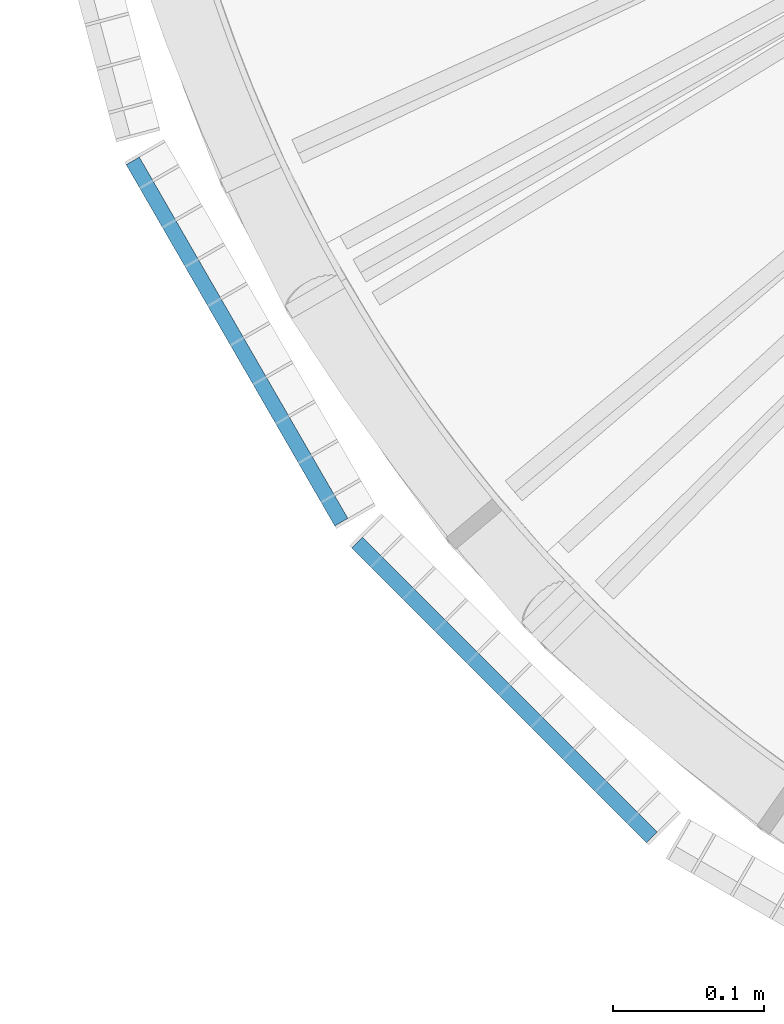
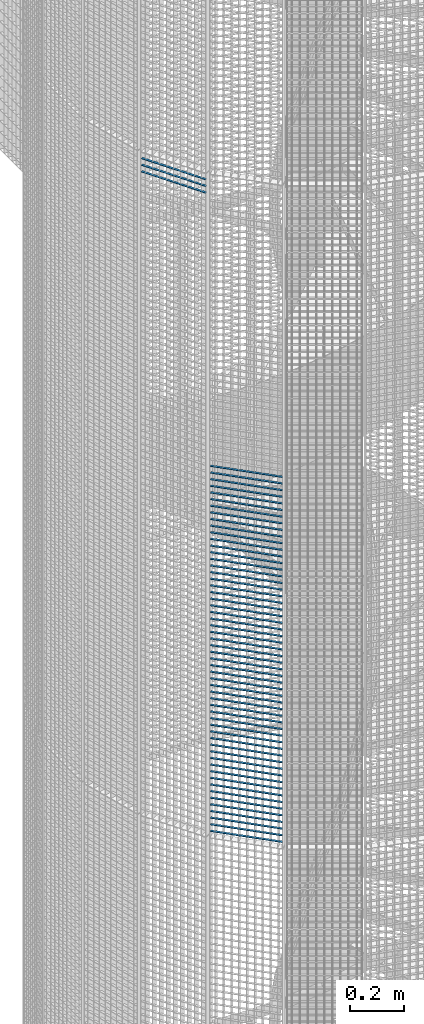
# One storey, part 125 of 1183: 59 beams, 2 elements without a shape of their own.
"""IFC2X3 building model written with IfcOpenShell, lengths in millimetres."""

from ifc_helpers import new_model, si_unit, frame, origin_with_axes, origin_2d_with_axis, place, context, subcontext, project, spatial, rectangle, extrude, material, type_object, element, aggregate, save


model = new_model("IFC2X3")

# Units and contexts
model_context = context("Model", 3, precision=1e-05, world=origin_with_axes())
body_context = subcontext(model_context, "Body", "Model", "MODEL_VIEW")
ifc_project = project(units=[si_unit("LENGTHUNIT", "METRE", prefix="MILLI"), si_unit("AREAUNIT", "SQUARE_METRE"), si_unit("VOLUMEUNIT", "CUBIC_METRE"), si_unit("MASSUNIT", "GRAM", prefix="KILO"), si_unit("TIMEUNIT", "SECOND"), si_unit("PLANEANGLEUNIT", "RADIAN"), si_unit("SOLIDANGLEUNIT", "STERADIAN"), si_unit("THERMODYNAMICTEMPERATUREUNIT", "DEGREE_CELSIUS"), si_unit("LUMINOUSINTENSITYUNIT", "LUMEN")], contexts=[model_context])

# Site, building, storey
site_placement = place(None, origin_with_axes())
site = spatial("IfcSite", under=ifc_project, at=site_placement, Name="Undefined", CompositionType="ELEMENT")
building_placement = place(site_placement, origin_with_axes())
building = spatial("IfcBuilding", under=site, at=building_placement, Name="Undefined", CompositionType="ELEMENT")
storey_placement = place(building_placement, origin_with_axes())
storey = spatial("IfcBuildingStorey", under=building, at=storey_placement, Name="Undefined", CompositionType="ELEMENT", Elevation=0.0)

# Assembly, beams
assembly_1_placement = place(storey_placement, origin_with_axes())
assembly_1 = element("IfcElementAssembly", 1, at=assembly_1_placement, inside=storey, Name="BORDURE", AssemblyPlace="NOTDEFINED", PredefinedType="NOTDEFINED")
ifc_material = material(Name="STEEL/S235JR")
beam_type = type_object("IfcBeamType", Name="PL2*10", PredefinedType="NOTDEFINED")
beam_1_placement = place(assembly_1_placement, frame((-884.927168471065, -689.771348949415, 4680.0), z_axis=(-0.70710678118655, -0.707106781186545, 0.0), x_axis=(0.707106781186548, -0.707106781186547, 0.0)))
beam_1 = element("IfcBeam", 2, at=beam_1_placement, type_object=beam_type, material=ifc_material, Name="ENTRETOISE", context=body_context, shape_type="SweptSolid", body=[
    extrude(rectangle(XDim=2.0, YDim=10.0, at=origin_2d_with_axis()), frame((275.999999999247, 9.09494701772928e-13, 1.53210777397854e-14), z_axis=(-1.0, 0.0, 0.0), x_axis=(0.0, -1.0, 0.0)), (0.0, 0.0, 1.0), 276.0),
])
beam_2_placement = place(assembly_1_placement, frame((-884.927168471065, -689.771348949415, 4650.0), z_axis=(-0.70710678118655, -0.707106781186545, 0.0), x_axis=(0.707106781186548, -0.707106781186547, 0.0)))
beam_2 = element("IfcBeam", 3, at=beam_2_placement, type_object=beam_type, material=ifc_material, Name="ENTRETOISE", context=body_context, shape_type="SweptSolid", body=[
    extrude(rectangle(XDim=2.0, YDim=10.0, at=origin_2d_with_axis()), frame((275.999999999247, 9.09494701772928e-13, 1.53210777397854e-14), z_axis=(-1.0, 0.0, 0.0), x_axis=(0.0, -1.0, 0.0)), (0.0, 0.0, 1.0), 276.0),
])
beam_3_placement = place(assembly_1_placement, frame((-884.927168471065, -689.771348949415, 4620.0), z_axis=(-0.70710678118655, -0.707106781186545, 0.0), x_axis=(0.707106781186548, -0.707106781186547, 0.0)))
beam_3 = element("IfcBeam", 4, at=beam_3_placement, type_object=beam_type, material=ifc_material, Name="ENTRETOISE", context=body_context, shape_type="SweptSolid", body=[
    extrude(rectangle(XDim=2.0, YDim=10.0, at=origin_2d_with_axis()), frame((275.999999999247, 9.09494701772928e-13, 1.53210777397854e-14), z_axis=(-1.0, 0.0, 0.0), x_axis=(0.0, -1.0, 0.0)), (0.0, 0.0, 1.0), 276.0),
])
beam_4_placement = place(assembly_1_placement, frame((-884.927168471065, -689.771348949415, 4590.0), z_axis=(-0.70710678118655, -0.707106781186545, 0.0), x_axis=(0.707106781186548, -0.707106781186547, 0.0)))
beam_4 = element("IfcBeam", 5, at=beam_4_placement, type_object=beam_type, material=ifc_material, Name="ENTRETOISE", context=body_context, shape_type="SweptSolid", body=[
    extrude(rectangle(XDim=2.0, YDim=10.0, at=origin_2d_with_axis()), frame((275.999999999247, 9.09494701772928e-13, 1.53210777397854e-14), z_axis=(-1.0, 0.0, 0.0), x_axis=(0.0, -1.0, 0.0)), (0.0, 0.0, 1.0), 276.0),
])
beam_5_placement = place(assembly_1_placement, frame((-884.927168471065, -689.771348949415, 4560.0), z_axis=(-0.70710678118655, -0.707106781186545, 0.0), x_axis=(0.707106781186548, -0.707106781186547, 0.0)))
beam_5 = element("IfcBeam", 6, at=beam_5_placement, type_object=beam_type, material=ifc_material, Name="ENTRETOISE", context=body_context, shape_type="SweptSolid", body=[
    extrude(rectangle(XDim=2.0, YDim=10.0, at=origin_2d_with_axis()), frame((275.999999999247, 9.09494701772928e-13, 1.53210777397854e-14), z_axis=(-1.0, 0.0, 0.0), x_axis=(0.0, -1.0, 0.0)), (0.0, 0.0, 1.0), 276.0),
])
beam_6_placement = place(assembly_1_placement, frame((-884.927168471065, -689.771348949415, 4530.0), z_axis=(-0.70710678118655, -0.707106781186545, 0.0), x_axis=(0.707106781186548, -0.707106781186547, 0.0)))
beam_6 = element("IfcBeam", 7, at=beam_6_placement, type_object=beam_type, material=ifc_material, Name="ENTRETOISE", context=body_context, shape_type="SweptSolid", body=[
    extrude(rectangle(XDim=2.0, YDim=10.0, at=origin_2d_with_axis()), frame((275.999999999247, 9.09494701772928e-13, 1.53210777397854e-14), z_axis=(-1.0, 0.0, 0.0), x_axis=(0.0, -1.0, 0.0)), (0.0, 0.0, 1.0), 276.0),
])
beam_7_placement = place(assembly_1_placement, frame((-884.927168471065, -689.771348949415, 4500.0), z_axis=(-0.70710678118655, -0.707106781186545, 0.0), x_axis=(0.707106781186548, -0.707106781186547, 0.0)))
beam_7 = element("IfcBeam", 8, at=beam_7_placement, type_object=beam_type, material=ifc_material, Name="ENTRETOISE", context=body_context, shape_type="SweptSolid", body=[
    extrude(rectangle(XDim=2.0, YDim=10.0, at=origin_2d_with_axis()), frame((275.999999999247, 9.09494701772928e-13, 1.53210777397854e-14), z_axis=(-1.0, 0.0, 0.0), x_axis=(0.0, -1.0, 0.0)), (0.0, 0.0, 1.0), 276.0),
])
beam_8_placement = place(assembly_1_placement, frame((-884.927168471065, -689.771348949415, 4470.0), z_axis=(-0.70710678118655, -0.707106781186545, 0.0), x_axis=(0.707106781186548, -0.707106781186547, 0.0)))
beam_8 = element("IfcBeam", 9, at=beam_8_placement, type_object=beam_type, material=ifc_material, Name="ENTRETOISE", context=body_context, shape_type="SweptSolid", body=[
    extrude(rectangle(XDim=2.0, YDim=10.0, at=origin_2d_with_axis()), frame((275.999999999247, 9.09494701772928e-13, 1.53210777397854e-14), z_axis=(-1.0, 0.0, 0.0), x_axis=(0.0, -1.0, 0.0)), (0.0, 0.0, 1.0), 276.0),
])
beam_9_placement = place(assembly_1_placement, frame((-884.927168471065, -689.771348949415, 4440.0), z_axis=(-0.70710678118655, -0.707106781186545, 0.0), x_axis=(0.707106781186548, -0.707106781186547, 0.0)))
beam_9 = element("IfcBeam", 10, at=beam_9_placement, type_object=beam_type, material=ifc_material, Name="ENTRETOISE", context=body_context, shape_type="SweptSolid", body=[
    extrude(rectangle(XDim=2.0, YDim=10.0, at=origin_2d_with_axis()), frame((275.999999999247, 9.09494701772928e-13, 1.53210777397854e-14), z_axis=(-1.0, 0.0, 0.0), x_axis=(0.0, -1.0, 0.0)), (0.0, 0.0, 1.0), 276.0),
])
beam_10_placement = place(assembly_1_placement, frame((-884.927168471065, -689.771348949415, 4410.0), z_axis=(-0.70710678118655, -0.707106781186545, 0.0), x_axis=(0.707106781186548, -0.707106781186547, 0.0)))
beam_10 = element("IfcBeam", 11, at=beam_10_placement, type_object=beam_type, material=ifc_material, Name="ENTRETOISE", context=body_context, shape_type="SweptSolid", body=[
    extrude(rectangle(XDim=2.0, YDim=10.0, at=origin_2d_with_axis()), frame((275.999999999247, 9.09494701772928e-13, 1.53210777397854e-14), z_axis=(-1.0, 0.0, 0.0), x_axis=(0.0, -1.0, 0.0)), (0.0, 0.0, 1.0), 276.0),
])
beam_11_placement = place(assembly_1_placement, frame((-884.927168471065, -689.771348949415, 4380.0), z_axis=(-0.70710678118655, -0.707106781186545, 0.0), x_axis=(0.707106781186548, -0.707106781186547, 0.0)))
beam_11 = element("IfcBeam", 12, at=beam_11_placement, type_object=beam_type, material=ifc_material, Name="ENTRETOISE", context=body_context, shape_type="SweptSolid", body=[
    extrude(rectangle(XDim=2.0, YDim=10.0, at=origin_2d_with_axis()), frame((275.999999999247, 9.09494701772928e-13, 1.53210777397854e-14), z_axis=(-1.0, 0.0, 0.0), x_axis=(0.0, -1.0, 0.0)), (0.0, 0.0, 1.0), 276.0),
])
beam_12_placement = place(assembly_1_placement, frame((-884.927168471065, -689.771348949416, 4350.0), z_axis=(-0.70710678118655, -0.707106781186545, 0.0), x_axis=(0.707106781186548, -0.707106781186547, 0.0)))
beam_12 = element("IfcBeam", 13, at=beam_12_placement, type_object=beam_type, material=ifc_material, Name="ENTRETOISE", context=body_context, shape_type="SweptSolid", body=[
    extrude(rectangle(XDim=2.0, YDim=10.0, at=origin_2d_with_axis()), frame((275.999999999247, 9.09494701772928e-13, 1.53210777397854e-14), z_axis=(-1.0, 0.0, 0.0), x_axis=(0.0, -1.0, 0.0)), (0.0, 0.0, 1.0), 276.0),
])
beam_13_placement = place(assembly_1_placement, frame((-884.927168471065, -689.771348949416, 4320.0), z_axis=(-0.70710678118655, -0.707106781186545, 0.0), x_axis=(0.707106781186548, -0.707106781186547, 0.0)))
beam_13 = element("IfcBeam", 14, at=beam_13_placement, type_object=beam_type, material=ifc_material, Name="ENTRETOISE", context=body_context, shape_type="SweptSolid", body=[
    extrude(rectangle(XDim=2.0, YDim=10.0, at=origin_2d_with_axis()), frame((275.999999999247, 9.09494701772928e-13, 1.53210777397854e-14), z_axis=(-1.0, 0.0, 0.0), x_axis=(0.0, -1.0, 0.0)), (0.0, 0.0, 1.0), 276.0),
])
beam_14_placement = place(assembly_1_placement, frame((-884.927168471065, -689.771348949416, 4290.0), z_axis=(-0.70710678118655, -0.707106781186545, 0.0), x_axis=(0.707106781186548, -0.707106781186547, 0.0)))
beam_14 = element("IfcBeam", 15, at=beam_14_placement, type_object=beam_type, material=ifc_material, Name="ENTRETOISE", context=body_context, shape_type="SweptSolid", body=[
    extrude(rectangle(XDim=2.0, YDim=10.0, at=origin_2d_with_axis()), frame((275.999999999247, 9.09494701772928e-13, 1.53210777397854e-14), z_axis=(-1.0, 0.0, 0.0), x_axis=(0.0, -1.0, 0.0)), (0.0, 0.0, 1.0), 276.0),
])
beam_15_placement = place(assembly_1_placement, frame((-884.927168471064, -689.771348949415, 4260.0), z_axis=(-0.70710678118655, -0.707106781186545, 0.0), x_axis=(0.707106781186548, -0.707106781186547, 0.0)))
beam_15 = element("IfcBeam", 16, at=beam_15_placement, type_object=beam_type, material=ifc_material, Name="ENTRETOISE", context=body_context, shape_type="SweptSolid", body=[
    extrude(rectangle(XDim=2.0, YDim=10.0, at=origin_2d_with_axis()), frame((275.999999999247, 9.09494701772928e-13, 1.53210777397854e-14), z_axis=(-1.0, 0.0, 0.0), x_axis=(0.0, -1.0, 0.0)), (0.0, 0.0, 1.0), 276.0),
])
beam_16_placement = place(assembly_1_placement, frame((-884.927168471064, -689.771348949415, 4230.0), z_axis=(-0.70710678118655, -0.707106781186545, 0.0), x_axis=(0.707106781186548, -0.707106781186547, 0.0)))
beam_16 = element("IfcBeam", 17, at=beam_16_placement, type_object=beam_type, material=ifc_material, Name="ENTRETOISE", context=body_context, shape_type="SweptSolid", body=[
    extrude(rectangle(XDim=2.0, YDim=10.0, at=origin_2d_with_axis()), frame((275.999999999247, 9.09494701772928e-13, 1.53210777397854e-14), z_axis=(-1.0, 0.0, 0.0), x_axis=(0.0, -1.0, 0.0)), (0.0, 0.0, 1.0), 276.0),
])
beam_17_placement = place(assembly_1_placement, frame((-884.927168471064, -689.771348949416, 4200.0), z_axis=(-0.70710678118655, -0.707106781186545, 0.0), x_axis=(0.707106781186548, -0.707106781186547, 0.0)))
beam_17 = element("IfcBeam", 18, at=beam_17_placement, type_object=beam_type, material=ifc_material, Name="ENTRETOISE", context=body_context, shape_type="SweptSolid", body=[
    extrude(rectangle(XDim=2.0, YDim=10.0, at=origin_2d_with_axis()), frame((275.999999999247, 9.09494701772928e-13, 1.53210777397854e-14), z_axis=(-1.0, 0.0, 0.0), x_axis=(0.0, -1.0, 0.0)), (0.0, 0.0, 1.0), 276.0),
])
beam_18_placement = place(assembly_1_placement, frame((-884.927168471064, -689.771348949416, 4170.0), z_axis=(-0.70710678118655, -0.707106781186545, 0.0), x_axis=(0.707106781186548, -0.707106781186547, 0.0)))
beam_18 = element("IfcBeam", 19, at=beam_18_placement, type_object=beam_type, material=ifc_material, Name="ENTRETOISE", context=body_context, shape_type="SweptSolid", body=[
    extrude(rectangle(XDim=2.0, YDim=10.0, at=origin_2d_with_axis()), frame((275.999999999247, 9.09494701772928e-13, 1.53210777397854e-14), z_axis=(-1.0, 0.0, 0.0), x_axis=(0.0, -1.0, 0.0)), (0.0, 0.0, 1.0), 276.0),
])
beam_19_placement = place(assembly_1_placement, frame((-884.927168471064, -689.771348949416, 4140.0), z_axis=(-0.70710678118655, -0.707106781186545, 0.0), x_axis=(0.707106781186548, -0.707106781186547, 0.0)))
beam_19 = element("IfcBeam", 20, at=beam_19_placement, type_object=beam_type, material=ifc_material, Name="ENTRETOISE", context=body_context, shape_type="SweptSolid", body=[
    extrude(rectangle(XDim=2.0, YDim=10.0, at=origin_2d_with_axis()), frame((275.999999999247, 9.09494701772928e-13, 1.53210777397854e-14), z_axis=(-1.0, 0.0, 0.0), x_axis=(0.0, -1.0, 0.0)), (0.0, 0.0, 1.0), 276.0),
])
beam_20_placement = place(assembly_1_placement, frame((-884.927168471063, -689.771348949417, 3720.0), z_axis=(-0.70710678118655, -0.707106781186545, 0.0), x_axis=(0.707106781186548, -0.707106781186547, 0.0)))
beam_20 = element("IfcBeam", 21, at=beam_20_placement, type_object=beam_type, material=ifc_material, Name="ENTRETOISE", context=body_context, shape_type="SweptSolid", body=[
    extrude(rectangle(XDim=2.0, YDim=10.0, at=origin_2d_with_axis()), frame((275.999999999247, 9.09494701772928e-13, 1.53210777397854e-14), z_axis=(-1.0, 0.0, 0.0), x_axis=(0.0, -1.0, 0.0)), (0.0, 0.0, 1.0), 276.0),
])
beam_21_placement = place(assembly_1_placement, frame((-884.927168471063, -689.771348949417, 3690.0), z_axis=(-0.70710678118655, -0.707106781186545, 0.0), x_axis=(0.707106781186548, -0.707106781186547, 0.0)))
beam_21 = element("IfcBeam", 22, at=beam_21_placement, type_object=beam_type, material=ifc_material, Name="ENTRETOISE", context=body_context, shape_type="SweptSolid", body=[
    extrude(rectangle(XDim=2.0, YDim=10.0, at=origin_2d_with_axis()), frame((275.999999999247, 9.09494701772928e-13, 1.53210777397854e-14), z_axis=(-1.0, 0.0, 0.0), x_axis=(0.0, -1.0, 0.0)), (0.0, 0.0, 1.0), 276.0),
])
beam_22_placement = place(assembly_1_placement, frame((-884.927168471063, -689.771348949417, 3750.0), z_axis=(-0.70710678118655, -0.707106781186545, 0.0), x_axis=(0.707106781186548, -0.707106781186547, 0.0)))
beam_22 = element("IfcBeam", 23, at=beam_22_placement, type_object=beam_type, material=ifc_material, Name="ENTRETOISE", context=body_context, shape_type="SweptSolid", body=[
    extrude(rectangle(XDim=2.0, YDim=10.0, at=origin_2d_with_axis()), frame((275.999999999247, 9.09494701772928e-13, 1.53210777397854e-14), z_axis=(-1.0, 0.0, 0.0), x_axis=(0.0, -1.0, 0.0)), (0.0, 0.0, 1.0), 276.0),
])
beam_23_placement = place(assembly_1_placement, frame((-884.927168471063, -689.771348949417, 3660.0), z_axis=(-0.70710678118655, -0.707106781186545, 0.0), x_axis=(0.707106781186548, -0.707106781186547, 0.0)))
beam_23 = element("IfcBeam", 24, at=beam_23_placement, type_object=beam_type, material=ifc_material, Name="ENTRETOISE", context=body_context, shape_type="SweptSolid", body=[
    extrude(rectangle(XDim=2.0, YDim=10.0, at=origin_2d_with_axis()), frame((275.999999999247, 9.09494701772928e-13, 1.53210777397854e-14), z_axis=(-1.0, 0.0, 0.0), x_axis=(0.0, -1.0, 0.0)), (0.0, 0.0, 1.0), 276.0),
])
beam_24_placement = place(assembly_1_placement, frame((-884.927168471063, -689.771348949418, 3630.0), z_axis=(-0.70710678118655, -0.707106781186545, 0.0), x_axis=(0.707106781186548, -0.707106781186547, 0.0)))
beam_24 = element("IfcBeam", 25, at=beam_24_placement, type_object=beam_type, material=ifc_material, Name="ENTRETOISE", context=body_context, shape_type="SweptSolid", body=[
    extrude(rectangle(XDim=2.0, YDim=10.0, at=origin_2d_with_axis()), frame((275.999999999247, 9.09494701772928e-13, 1.53210777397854e-14), z_axis=(-1.0, 0.0, 0.0), x_axis=(0.0, -1.0, 0.0)), (0.0, 0.0, 1.0), 276.0),
])
beam_25_placement = place(assembly_1_placement, frame((-884.927168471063, -689.771348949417, 3780.0), z_axis=(-0.70710678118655, -0.707106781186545, 0.0), x_axis=(0.707106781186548, -0.707106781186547, 0.0)))
beam_25 = element("IfcBeam", 26, at=beam_25_placement, type_object=beam_type, material=ifc_material, Name="ENTRETOISE", context=body_context, shape_type="SweptSolid", body=[
    extrude(rectangle(XDim=2.0, YDim=10.0, at=origin_2d_with_axis()), frame((275.999999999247, 9.09494701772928e-13, 1.53210777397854e-14), z_axis=(-1.0, 0.0, 0.0), x_axis=(0.0, -1.0, 0.0)), (0.0, 0.0, 1.0), 276.0),
])
beam_26_placement = place(assembly_1_placement, frame((-884.927168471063, -689.771348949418, 3600.0), z_axis=(-0.70710678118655, -0.707106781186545, 0.0), x_axis=(0.707106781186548, -0.707106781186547, 0.0)))
beam_26 = element("IfcBeam", 27, at=beam_26_placement, type_object=beam_type, material=ifc_material, Name="ENTRETOISE", context=body_context, shape_type="SweptSolid", body=[
    extrude(rectangle(XDim=2.0, YDim=10.0, at=origin_2d_with_axis()), frame((275.999999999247, 9.09494701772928e-13, 1.53210777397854e-14), z_axis=(-1.0, 0.0, 0.0), x_axis=(0.0, -1.0, 0.0)), (0.0, 0.0, 1.0), 276.0),
])
beam_27_placement = place(assembly_1_placement, frame((-884.927168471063, -689.771348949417, 3810.0), z_axis=(-0.70710678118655, -0.707106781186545, 0.0), x_axis=(0.707106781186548, -0.707106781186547, 0.0)))
beam_27 = element("IfcBeam", 28, at=beam_27_placement, type_object=beam_type, material=ifc_material, Name="ENTRETOISE", context=body_context, shape_type="SweptSolid", body=[
    extrude(rectangle(XDim=2.0, YDim=10.0, at=origin_2d_with_axis()), frame((275.999999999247, 9.09494701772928e-13, 1.53210777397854e-14), z_axis=(-1.0, 0.0, 0.0), x_axis=(0.0, -1.0, 0.0)), (0.0, 0.0, 1.0), 276.0),
])
beam_28_placement = place(assembly_1_placement, frame((-884.927168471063, -689.771348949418, 3570.0), z_axis=(-0.70710678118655, -0.707106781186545, 0.0), x_axis=(0.707106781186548, -0.707106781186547, 0.0)))
beam_28 = element("IfcBeam", 29, at=beam_28_placement, type_object=beam_type, material=ifc_material, Name="ENTRETOISE", context=body_context, shape_type="SweptSolid", body=[
    extrude(rectangle(XDim=2.0, YDim=10.0, at=origin_2d_with_axis()), frame((275.999999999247, 9.09494701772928e-13, 1.53210777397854e-14), z_axis=(-1.0, 0.0, 0.0), x_axis=(0.0, -1.0, 0.0)), (0.0, 0.0, 1.0), 276.0),
])
beam_29_placement = place(assembly_1_placement, frame((-884.927168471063, -689.771348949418, 3540.0), z_axis=(-0.70710678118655, -0.707106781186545, 0.0), x_axis=(0.707106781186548, -0.707106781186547, 0.0)))
beam_29 = element("IfcBeam", 30, at=beam_29_placement, type_object=beam_type, material=ifc_material, Name="ENTRETOISE", context=body_context, shape_type="SweptSolid", body=[
    extrude(rectangle(XDim=2.0, YDim=10.0, at=origin_2d_with_axis()), frame((275.999999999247, 9.09494701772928e-13, 1.53210777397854e-14), z_axis=(-1.0, 0.0, 0.0), x_axis=(0.0, -1.0, 0.0)), (0.0, 0.0, 1.0), 276.0),
])
beam_30_placement = place(assembly_1_placement, frame((-884.927168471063, -689.771348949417, 3840.0), z_axis=(-0.70710678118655, -0.707106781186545, 0.0), x_axis=(0.707106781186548, -0.707106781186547, 0.0)))
beam_30 = element("IfcBeam", 31, at=beam_30_placement, type_object=beam_type, material=ifc_material, Name="ENTRETOISE", context=body_context, shape_type="SweptSolid", body=[
    extrude(rectangle(XDim=2.0, YDim=10.0, at=origin_2d_with_axis()), frame((275.999999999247, 9.09494701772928e-13, 1.53210777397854e-14), z_axis=(-1.0, 0.0, 0.0), x_axis=(0.0, -1.0, 0.0)), (0.0, 0.0, 1.0), 276.0),
])
beam_31_placement = place(assembly_1_placement, frame((-884.927168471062, -689.771348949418, 3510.0), z_axis=(-0.70710678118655, -0.707106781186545, 0.0), x_axis=(0.707106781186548, -0.707106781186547, 0.0)))
beam_31 = element("IfcBeam", 32, at=beam_31_placement, type_object=beam_type, material=ifc_material, Name="ENTRETOISE", context=body_context, shape_type="SweptSolid", body=[
    extrude(rectangle(XDim=2.0, YDim=10.0, at=origin_2d_with_axis()), frame((275.999999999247, 9.09494701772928e-13, 1.53210777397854e-14), z_axis=(-1.0, 0.0, 0.0), x_axis=(0.0, -1.0, 0.0)), (0.0, 0.0, 1.0), 276.0),
])
beam_32_placement = place(assembly_1_placement, frame((-884.927168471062, -689.771348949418, 3480.0), z_axis=(-0.70710678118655, -0.707106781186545, 0.0), x_axis=(0.707106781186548, -0.707106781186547, 0.0)))
beam_32 = element("IfcBeam", 33, at=beam_32_placement, type_object=beam_type, material=ifc_material, Name="ENTRETOISE", context=body_context, shape_type="SweptSolid", body=[
    extrude(rectangle(XDim=2.0, YDim=10.0, at=origin_2d_with_axis()), frame((275.999999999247, 9.09494701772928e-13, 1.53210777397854e-14), z_axis=(-1.0, 0.0, 0.0), x_axis=(0.0, -1.0, 0.0)), (0.0, 0.0, 1.0), 276.0),
])
beam_33_placement = place(assembly_1_placement, frame((-884.927168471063, -689.771348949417, 3870.0), z_axis=(-0.70710678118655, -0.707106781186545, 0.0), x_axis=(0.707106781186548, -0.707106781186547, 0.0)))
beam_33 = element("IfcBeam", 34, at=beam_33_placement, type_object=beam_type, material=ifc_material, Name="ENTRETOISE", context=body_context, shape_type="SweptSolid", body=[
    extrude(rectangle(XDim=2.0, YDim=10.0, at=origin_2d_with_axis()), frame((275.999999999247, 9.09494701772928e-13, 1.53210777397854e-14), z_axis=(-1.0, 0.0, 0.0), x_axis=(0.0, -1.0, 0.0)), (0.0, 0.0, 1.0), 276.0),
])
beam_34_placement = place(assembly_1_placement, frame((-884.927168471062, -689.771348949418, 3450.0), z_axis=(-0.70710678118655, -0.707106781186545, 0.0), x_axis=(0.707106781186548, -0.707106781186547, 0.0)))
beam_34 = element("IfcBeam", 35, at=beam_34_placement, type_object=beam_type, material=ifc_material, Name="ENTRETOISE", context=body_context, shape_type="SweptSolid", body=[
    extrude(rectangle(XDim=2.0, YDim=10.0, at=origin_2d_with_axis()), frame((275.999999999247, 9.09494701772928e-13, 1.53210777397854e-14), z_axis=(-1.0, 0.0, 0.0), x_axis=(0.0, -1.0, 0.0)), (0.0, 0.0, 1.0), 276.0),
])
beam_35_placement = place(assembly_1_placement, frame((-884.927168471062, -689.771348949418, 3420.0), z_axis=(-0.70710678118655, -0.707106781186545, 0.0), x_axis=(0.707106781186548, -0.707106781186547, 0.0)))
beam_35 = element("IfcBeam", 36, at=beam_35_placement, type_object=beam_type, material=ifc_material, Name="ENTRETOISE", context=body_context, shape_type="SweptSolid", body=[
    extrude(rectangle(XDim=2.0, YDim=10.0, at=origin_2d_with_axis()), frame((275.999999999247, 9.09494701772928e-13, 1.53210777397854e-14), z_axis=(-1.0, 0.0, 0.0), x_axis=(0.0, -1.0, 0.0)), (0.0, 0.0, 1.0), 276.0),
])
beam_36_placement = place(assembly_1_placement, frame((-884.927168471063, -689.771348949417, 3900.0), z_axis=(-0.70710678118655, -0.707106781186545, 0.0), x_axis=(0.707106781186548, -0.707106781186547, 0.0)))
beam_36 = element("IfcBeam", 37, at=beam_36_placement, type_object=beam_type, material=ifc_material, Name="ENTRETOISE", context=body_context, shape_type="SweptSolid", body=[
    extrude(rectangle(XDim=2.0, YDim=10.0, at=origin_2d_with_axis()), frame((275.999999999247, 9.09494701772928e-13, 1.53210777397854e-14), z_axis=(-1.0, 0.0, 0.0), x_axis=(0.0, -1.0, 0.0)), (0.0, 0.0, 1.0), 276.0),
])
beam_37_placement = place(assembly_1_placement, frame((-884.927168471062, -689.771348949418, 3390.0), z_axis=(-0.70710678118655, -0.707106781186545, 0.0), x_axis=(0.707106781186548, -0.707106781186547, 0.0)))
beam_37 = element("IfcBeam", 38, at=beam_37_placement, type_object=beam_type, material=ifc_material, Name="ENTRETOISE", context=body_context, shape_type="SweptSolid", body=[
    extrude(rectangle(XDim=2.0, YDim=10.0, at=origin_2d_with_axis()), frame((275.999999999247, 9.09494701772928e-13, 1.53210777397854e-14), z_axis=(-1.0, 0.0, 0.0), x_axis=(0.0, -1.0, 0.0)), (0.0, 0.0, 1.0), 276.0),
])
beam_38_placement = place(assembly_1_placement, frame((-884.927168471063, -689.771348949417, 3930.0), z_axis=(-0.70710678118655, -0.707106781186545, 0.0), x_axis=(0.707106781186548, -0.707106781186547, 0.0)))
beam_38 = element("IfcBeam", 39, at=beam_38_placement, type_object=beam_type, material=ifc_material, Name="ENTRETOISE", context=body_context, shape_type="SweptSolid", body=[
    extrude(rectangle(XDim=2.0, YDim=10.0, at=origin_2d_with_axis()), frame((275.999999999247, 9.09494701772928e-13, 1.53210777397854e-14), z_axis=(-1.0, 0.0, 0.0), x_axis=(0.0, -1.0, 0.0)), (0.0, 0.0, 1.0), 276.0),
])
beam_39_placement = place(assembly_1_placement, frame((-884.927168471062, -689.771348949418, 3360.0), z_axis=(-0.70710678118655, -0.707106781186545, 0.0), x_axis=(0.707106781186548, -0.707106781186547, 0.0)))
beam_39 = element("IfcBeam", 40, at=beam_39_placement, type_object=beam_type, material=ifc_material, Name="ENTRETOISE", context=body_context, shape_type="SweptSolid", body=[
    extrude(rectangle(XDim=2.0, YDim=10.0, at=origin_2d_with_axis()), frame((275.999999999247, 9.09494701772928e-13, 1.53210777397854e-14), z_axis=(-1.0, 0.0, 0.0), x_axis=(0.0, -1.0, 0.0)), (0.0, 0.0, 1.0), 276.0),
])
beam_40_placement = place(assembly_1_placement, frame((-884.927168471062, -689.771348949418, 3330.0), z_axis=(-0.70710678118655, -0.707106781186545, 0.0), x_axis=(0.707106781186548, -0.707106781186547, 0.0)))
beam_40 = element("IfcBeam", 41, at=beam_40_placement, type_object=beam_type, material=ifc_material, Name="ENTRETOISE", context=body_context, shape_type="SweptSolid", body=[
    extrude(rectangle(XDim=2.0, YDim=10.0, at=origin_2d_with_axis()), frame((275.999999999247, 9.09494701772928e-13, 1.53210777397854e-14), z_axis=(-1.0, 0.0, 0.0), x_axis=(0.0, -1.0, 0.0)), (0.0, 0.0, 1.0), 276.0),
])
beam_41_placement = place(assembly_1_placement, frame((-884.927168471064, -689.771348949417, 3960.0), z_axis=(-0.70710678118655, -0.707106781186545, 0.0), x_axis=(0.707106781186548, -0.707106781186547, 0.0)))
beam_41 = element("IfcBeam", 42, at=beam_41_placement, type_object=beam_type, material=ifc_material, Name="ENTRETOISE", context=body_context, shape_type="SweptSolid", body=[
    extrude(rectangle(XDim=2.0, YDim=10.0, at=origin_2d_with_axis()), frame((275.999999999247, 9.09494701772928e-13, 1.53210777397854e-14), z_axis=(-1.0, 0.0, 0.0), x_axis=(0.0, -1.0, 0.0)), (0.0, 0.0, 1.0), 276.0),
])
beam_42_placement = place(assembly_1_placement, frame((-884.927168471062, -689.771348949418, 3300.0), z_axis=(-0.70710678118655, -0.707106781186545, 0.0), x_axis=(0.707106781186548, -0.707106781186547, 0.0)))
beam_42 = element("IfcBeam", 43, at=beam_42_placement, type_object=beam_type, material=ifc_material, Name="ENTRETOISE", context=body_context, shape_type="SweptSolid", body=[
    extrude(rectangle(XDim=2.0, YDim=10.0, at=origin_2d_with_axis()), frame((275.999999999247, 9.09494701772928e-13, 1.53210777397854e-14), z_axis=(-1.0, 0.0, 0.0), x_axis=(0.0, -1.0, 0.0)), (0.0, 0.0, 1.0), 276.0),
])
beam_43_placement = place(assembly_1_placement, frame((-884.927168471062, -689.771348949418, 3270.0), z_axis=(-0.70710678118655, -0.707106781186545, 0.0), x_axis=(0.707106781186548, -0.707106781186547, 0.0)))
beam_43 = element("IfcBeam", 44, at=beam_43_placement, type_object=beam_type, material=ifc_material, Name="ENTRETOISE", context=body_context, shape_type="SweptSolid", body=[
    extrude(rectangle(XDim=2.0, YDim=10.0, at=origin_2d_with_axis()), frame((275.999999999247, 9.09494701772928e-13, 1.53210777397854e-14), z_axis=(-1.0, 0.0, 0.0), x_axis=(0.0, -1.0, 0.0)), (0.0, 0.0, 1.0), 276.0),
])
beam_44_placement = place(assembly_1_placement, frame((-884.927168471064, -689.771348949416, 3990.0), z_axis=(-0.70710678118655, -0.707106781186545, 0.0), x_axis=(0.707106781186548, -0.707106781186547, 0.0)))
beam_44 = element("IfcBeam", 45, at=beam_44_placement, type_object=beam_type, material=ifc_material, Name="ENTRETOISE", context=body_context, shape_type="SweptSolid", body=[
    extrude(rectangle(XDim=2.0, YDim=10.0, at=origin_2d_with_axis()), frame((275.999999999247, 9.09494701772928e-13, 1.53210777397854e-14), z_axis=(-1.0, 0.0, 0.0), x_axis=(0.0, -1.0, 0.0)), (0.0, 0.0, 1.0), 276.0),
])
beam_45_placement = place(assembly_1_placement, frame((-884.927168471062, -689.771348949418, 3240.0), z_axis=(-0.70710678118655, -0.707106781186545, 0.0), x_axis=(0.707106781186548, -0.707106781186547, 0.0)))
beam_45 = element("IfcBeam", 46, at=beam_45_placement, type_object=beam_type, material=ifc_material, Name="ENTRETOISE", context=body_context, shape_type="SweptSolid", body=[
    extrude(rectangle(XDim=2.0, YDim=10.0, at=origin_2d_with_axis()), frame((275.999999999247, 9.09494701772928e-13, 1.53210777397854e-14), z_axis=(-1.0, 0.0, 0.0), x_axis=(0.0, -1.0, 0.0)), (0.0, 0.0, 1.0), 276.0),
])
beam_46_placement = place(assembly_1_placement, frame((-884.927168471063, -689.771348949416, 4020.0), z_axis=(-0.70710678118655, -0.707106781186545, 0.0), x_axis=(0.707106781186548, -0.707106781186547, 0.0)))
beam_46 = element("IfcBeam", 47, at=beam_46_placement, type_object=beam_type, material=ifc_material, Name="ENTRETOISE", context=body_context, shape_type="SweptSolid", body=[
    extrude(rectangle(XDim=2.0, YDim=10.0, at=origin_2d_with_axis()), frame((275.999999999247, 9.09494701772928e-13, 1.53210777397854e-14), z_axis=(-1.0, 0.0, 0.0), x_axis=(0.0, -1.0, 0.0)), (0.0, 0.0, 1.0), 276.0),
])
beam_47_placement = place(assembly_1_placement, frame((-884.927168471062, -689.771348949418, 3210.0), z_axis=(-0.70710678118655, -0.707106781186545, 0.0), x_axis=(0.707106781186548, -0.707106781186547, 0.0)))
beam_47 = element("IfcBeam", 48, at=beam_47_placement, type_object=beam_type, material=ifc_material, Name="ENTRETOISE", context=body_context, shape_type="SweptSolid", body=[
    extrude(rectangle(XDim=2.0, YDim=10.0, at=origin_2d_with_axis()), frame((275.999999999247, 9.09494701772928e-13, 1.53210777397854e-14), z_axis=(-1.0, 0.0, 0.0), x_axis=(0.0, -1.0, 0.0)), (0.0, 0.0, 1.0), 276.0),
])
beam_48_placement = place(assembly_1_placement, frame((-884.927168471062, -689.771348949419, 3180.0), z_axis=(-0.70710678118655, -0.707106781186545, 0.0), x_axis=(0.707106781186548, -0.707106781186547, 0.0)))
beam_48 = element("IfcBeam", 49, at=beam_48_placement, type_object=beam_type, material=ifc_material, Name="ENTRETOISE", context=body_context, shape_type="SweptSolid", body=[
    extrude(rectangle(XDim=2.0, YDim=10.0, at=origin_2d_with_axis()), frame((275.999999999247, 9.09494701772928e-13, 1.53210777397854e-14), z_axis=(-1.0, 0.0, 0.0), x_axis=(0.0, -1.0, 0.0)), (0.0, 0.0, 1.0), 276.0),
])
beam_49_placement = place(assembly_1_placement, frame((-884.927168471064, -689.771348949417, 4050.0), z_axis=(-0.70710678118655, -0.707106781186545, 0.0), x_axis=(0.707106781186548, -0.707106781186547, 0.0)))
beam_49 = element("IfcBeam", 50, at=beam_49_placement, type_object=beam_type, material=ifc_material, Name="ENTRETOISE", context=body_context, shape_type="SweptSolid", body=[
    extrude(rectangle(XDim=2.0, YDim=10.0, at=origin_2d_with_axis()), frame((275.999999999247, 9.09494701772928e-13, 1.53210777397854e-14), z_axis=(-1.0, 0.0, 0.0), x_axis=(0.0, -1.0, 0.0)), (0.0, 0.0, 1.0), 276.0),
])
beam_50_placement = place(assembly_1_placement, frame((-884.927168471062, -689.771348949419, 3150.0), z_axis=(-0.70710678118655, -0.707106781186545, 0.0), x_axis=(0.707106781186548, -0.707106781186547, 0.0)))
beam_50 = element("IfcBeam", 51, at=beam_50_placement, type_object=beam_type, material=ifc_material, Name="ENTRETOISE", context=body_context, shape_type="SweptSolid", body=[
    extrude(rectangle(XDim=2.0, YDim=10.0, at=origin_2d_with_axis()), frame((275.999999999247, 9.09494701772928e-13, 1.53210777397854e-14), z_axis=(-1.0, 0.0, 0.0), x_axis=(0.0, -1.0, 0.0)), (0.0, 0.0, 1.0), 276.0),
])
beam_51_placement = place(assembly_1_placement, frame((-884.927168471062, -689.771348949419, 3120.0), z_axis=(-0.70710678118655, -0.707106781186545, 0.0), x_axis=(0.707106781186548, -0.707106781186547, 0.0)))
beam_51 = element("IfcBeam", 52, at=beam_51_placement, type_object=beam_type, material=ifc_material, Name="ENTRETOISE", context=body_context, shape_type="SweptSolid", body=[
    extrude(rectangle(XDim=2.0, YDim=10.0, at=origin_2d_with_axis()), frame((275.999999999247, 9.09494701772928e-13, 1.53210777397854e-14), z_axis=(-1.0, 0.0, 0.0), x_axis=(0.0, -1.0, 0.0)), (0.0, 0.0, 1.0), 276.0),
])
beam_52_placement = place(assembly_1_placement, frame((-884.927168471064, -689.771348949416, 4080.0), z_axis=(-0.70710678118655, -0.707106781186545, 0.0), x_axis=(0.707106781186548, -0.707106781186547, 0.0)))
beam_52 = element("IfcBeam", 53, at=beam_52_placement, type_object=beam_type, material=ifc_material, Name="ENTRETOISE", context=body_context, shape_type="SweptSolid", body=[
    extrude(rectangle(XDim=2.0, YDim=10.0, at=origin_2d_with_axis()), frame((275.999999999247, 9.09494701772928e-13, 1.53210777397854e-14), z_axis=(-1.0, 0.0, 0.0), x_axis=(0.0, -1.0, 0.0)), (0.0, 0.0, 1.0), 276.0),
])
beam_53_placement = place(assembly_1_placement, frame((-884.927168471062, -689.771348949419, 3090.0), z_axis=(-0.70710678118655, -0.707106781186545, 0.0), x_axis=(0.707106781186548, -0.707106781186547, 0.0)))
beam_53 = element("IfcBeam", 54, at=beam_53_placement, type_object=beam_type, material=ifc_material, Name="ENTRETOISE", context=body_context, shape_type="SweptSolid", body=[
    extrude(rectangle(XDim=2.0, YDim=10.0, at=origin_2d_with_axis()), frame((275.999999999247, 9.09494701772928e-13, 1.53210777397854e-14), z_axis=(-1.0, 0.0, 0.0), x_axis=(0.0, -1.0, 0.0)), (0.0, 0.0, 1.0), 276.0),
])
beam_54_placement = place(assembly_1_placement, frame((-884.927168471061, -689.771348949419, 3060.0), z_axis=(-0.70710678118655, -0.707106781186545, 0.0), x_axis=(0.707106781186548, -0.707106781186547, 0.0)))
beam_54 = element("IfcBeam", 55, at=beam_54_placement, type_object=beam_type, material=ifc_material, Name="ENTRETOISE", context=body_context, shape_type="SweptSolid", body=[
    extrude(rectangle(XDim=2.0, YDim=10.0, at=origin_2d_with_axis()), frame((275.999999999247, 9.09494701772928e-13, 1.53210777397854e-14), z_axis=(-1.0, 0.0, 0.0), x_axis=(0.0, -1.0, 0.0)), (0.0, 0.0, 1.0), 276.0),
])
beam_55_placement = place(assembly_1_placement, frame((-884.927168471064, -689.771348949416, 4110.0), z_axis=(-0.70710678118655, -0.707106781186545, 0.0), x_axis=(0.707106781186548, -0.707106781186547, 0.0)))
beam_55 = element("IfcBeam", 56, at=beam_55_placement, type_object=beam_type, material=ifc_material, Name="ENTRETOISE", context=body_context, shape_type="SweptSolid", body=[
    extrude(rectangle(XDim=2.0, YDim=10.0, at=origin_2d_with_axis()), frame((275.999999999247, 9.09494701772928e-13, 1.53210777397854e-14), z_axis=(-1.0, 0.0, 0.0), x_axis=(0.0, -1.0, 0.0)), (0.0, 0.0, 1.0), 276.0),
])
beam_56_placement = place(assembly_1_placement, frame((-884.92716847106, -689.771348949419, 3030.0), z_axis=(-0.70710678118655, -0.707106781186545, 0.0), x_axis=(0.707106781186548, -0.707106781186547, 0.0)))
beam_56 = element("IfcBeam", 57, at=beam_56_placement, type_object=beam_type, material=ifc_material, Name="ENTRETOISE", context=body_context, shape_type="SweptSolid", body=[
    extrude(rectangle(XDim=2.0, YDim=10.0, at=origin_2d_with_axis()), frame((275.999999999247, 9.09494701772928e-13, 1.53210777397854e-14), z_axis=(-1.0, 0.0, 0.0), x_axis=(0.0, -1.0, 0.0)), (0.0, 0.0, 1.0), 276.0),
])
aggregate(assembly_1, [beam_1, beam_2, beam_3, beam_4, beam_5, beam_6, beam_7, beam_8, beam_9, beam_10, beam_11, beam_12, beam_13, beam_14, beam_15, beam_16, beam_17, beam_18, beam_19, beam_20, beam_21, beam_22, beam_23, beam_24, beam_25, beam_26, beam_27, beam_28, beam_29, beam_30, beam_31, beam_32, beam_33, beam_34, beam_35, beam_36, beam_37, beam_38, beam_39, beam_40, beam_41, beam_42, beam_43, beam_44, beam_45, beam_46, beam_47, beam_48, beam_49, beam_50, beam_51, beam_52, beam_53, beam_54, beam_55, beam_56])

assembly_2_placement = place(storey_placement, origin_with_axes())
assembly_2 = element("IfcElementAssembly", 58, at=assembly_2_placement, inside=storey, Name="BORDURE", AssemblyPlace="NOTDEFINED", PredefinedType="NOTDEFINED")
beam_57_placement = place(assembly_2_placement, frame((-1033.29996828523, -437.231955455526, 5970.0), z_axis=(-0.866025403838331, -0.499999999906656, 0.0), x_axis=(0.499999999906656, -0.866025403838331, 0.0)))
beam_57 = element("IfcBeam", 59, at=beam_57_placement, type_object=beam_type, material=ifc_material, Name="ENTRETOISE", context=body_context, shape_type="SweptSolid", body=[
    extrude(rectangle(XDim=2.0, YDim=10.0, at=origin_2d_with_axis()), frame((275.999999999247, 9.09494701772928e-13, 1.53210777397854e-14), z_axis=(-1.0, 0.0, 0.0), x_axis=(0.0, -1.0, 0.0)), (0.0, 0.0, 1.0), 276.0),
])
beam_58_placement = place(assembly_2_placement, frame((-1033.29996828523, -437.231955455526, 5940.0), z_axis=(-0.866025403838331, -0.499999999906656, 0.0), x_axis=(0.499999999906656, -0.866025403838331, 0.0)))
beam_58 = element("IfcBeam", 60, at=beam_58_placement, type_object=beam_type, material=ifc_material, Name="ENTRETOISE", context=body_context, shape_type="SweptSolid", body=[
    extrude(rectangle(XDim=2.0, YDim=10.0, at=origin_2d_with_axis()), frame((275.999999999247, 9.09494701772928e-13, 1.53210777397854e-14), z_axis=(-1.0, 0.0, 0.0), x_axis=(0.0, -1.0, 0.0)), (0.0, 0.0, 1.0), 276.0),
])
beam_59_placement = place(assembly_2_placement, frame((-1033.29996828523, -437.231955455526, 5910.0), z_axis=(-0.866025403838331, -0.499999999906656, 0.0), x_axis=(0.499999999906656, -0.866025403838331, 0.0)))
beam_59 = element("IfcBeam", 61, at=beam_59_placement, type_object=beam_type, material=ifc_material, Name="ENTRETOISE", context=body_context, shape_type="SweptSolid", body=[
    extrude(rectangle(XDim=2.0, YDim=10.0, at=origin_2d_with_axis()), frame((275.999999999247, 9.09494701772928e-13, 1.53210777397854e-14), z_axis=(-1.0, 0.0, 0.0), x_axis=(0.0, -1.0, 0.0)), (0.0, 0.0, 1.0), 276.0),
])
aggregate(assembly_2, [beam_57, beam_58, beam_59])

save(model, "model.ifc")
